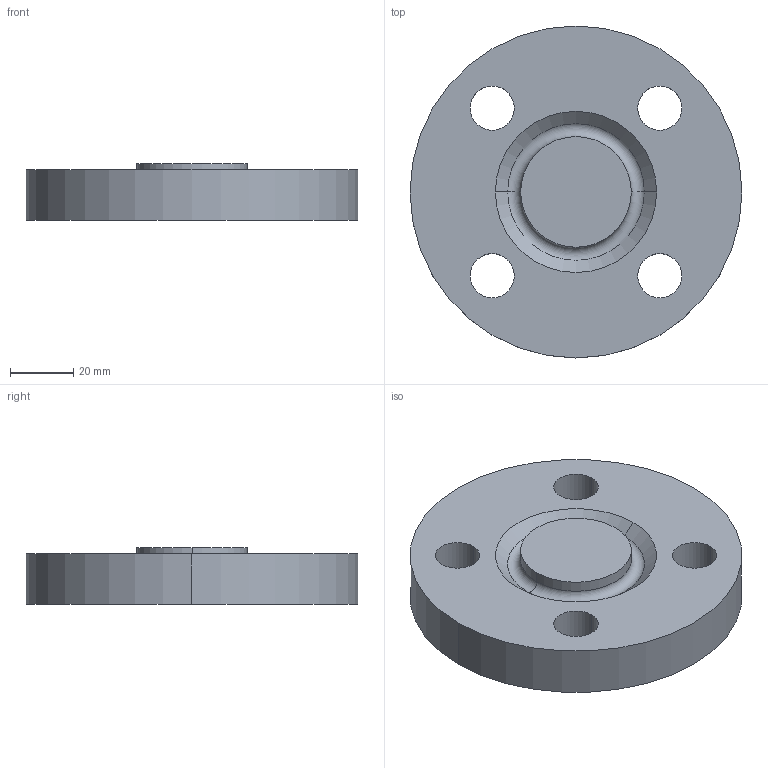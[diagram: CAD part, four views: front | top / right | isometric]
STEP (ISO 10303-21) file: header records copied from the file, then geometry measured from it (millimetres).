
FILE_DESCRIPTION (( 'STEP AP214' ), '1' );
FILE_NAME ('PN40 DN20 Type 05 - Type H Face.STEP', '2018-12-29T18:22:49', ( '' ), ( '' ), 'SwSTEP 2.0', 'SolidWorks 2019', '' );
FILE_SCHEMA (( 'AUTOMOTIVE_DESIGN' ));
Length unit declared in the file: millimetre
Products named in the file (1): PN40 DN20 Type 05 - Type H Face
Bounding box: 105 x 105 x 18 mm (x, y, z)
Volume: 127833 mm3; surface area: 24932.5 mm2
Topology: 1 solids, 1 shells, 19 faces, 44 edges, 28 vertices
Faces by surface type: cylinder 12, plane 3, torus 2, cone 2
Entity records: 606 total; most frequent: DIRECTION 114, CARTESIAN_POINT 92, ORIENTED_EDGE 88, AXIS2_PLACEMENT_3D 50, EDGE_CURVE 44, CIRCLE 30, EDGE_LOOP 28, VERTEX_POINT 28
